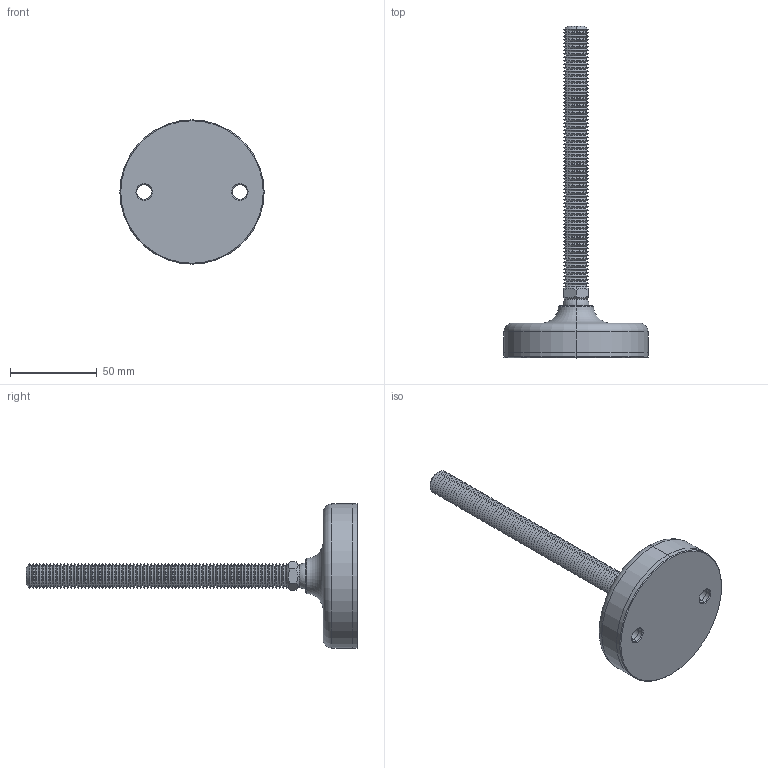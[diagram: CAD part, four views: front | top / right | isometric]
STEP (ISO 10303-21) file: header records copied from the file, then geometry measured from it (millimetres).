
FILE_DESCRIPTION (( 'STEP AP203' ), '1' );
FILE_NAME ('34724.W1404.step', '2019-11-28T22:10:32', ( '' ), ( '' ), 'SwSTEP 2.0', 'SolidWorks 2017', '' );
FILE_SCHEMA (( 'CONFIG_CONTROL_DESIGN' ));
Length unit declared in the file: millimetre
Products named in the file (4): Part2_34724.W1404; 34724.W1404; Part1_34724.W1404; Part3_34724.W1404
Assembly tree (3 placements, depth 2):
  34724.W1404
    Part1_34724.W1404
    Part2_34724.W1404
    Part3_34724.W1404
Bounding box: 83 x 191 x 83 mm (x, y, z)
Volume: 128928.1 mm3; surface area: 39903.8 mm2
Topology: 3 solids, 3 shells, 348 faces, 711 edges, 369 vertices
Faces by surface type: cone 314, plane 14, cylinder 12, sphere 4, torus 4
Entity records: 9358 total; most frequent: DIRECTION 1756, CARTESIAN_POINT 1564, ORIENTED_EDGE 1404, AXIS2_PLACEMENT_3D 712, EDGE_CURVE 702, VERTEX_POINT 364, EDGE_LOOP 360, CIRCLE 358
